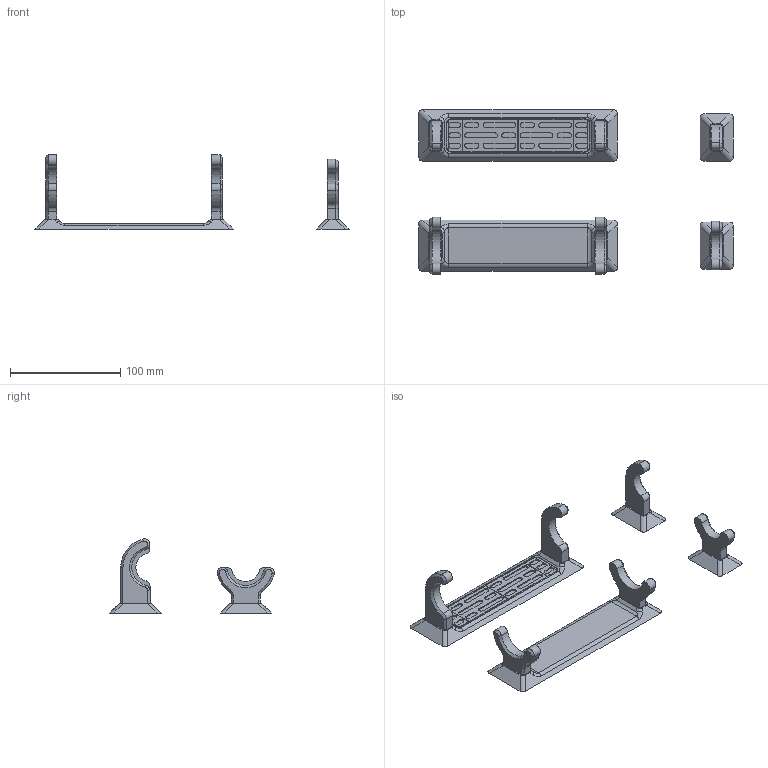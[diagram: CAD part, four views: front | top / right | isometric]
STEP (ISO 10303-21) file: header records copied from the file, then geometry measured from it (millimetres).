
FILE_DESCRIPTION(/* description */ (''),/* implementation_level */ '2;1');
FILE_NAME(/* name */ 'lightsaber_wall_mount_full.step',/* time_stamp */ '2025-11-28T09:45:35-06:00',/* author */ (''),/* organization */ (''),/* preprocessor_version */ 'ST-DEVELOPER v20.1',/* originating_system */ 'Autodesk Translation Framework v14.21.0.0',/* authorisation */ '');
FILE_SCHEMA (('AUTOMOTIVE_DESIGN { 1 0 10303 214 3 1 1 }'));
Length unit declared in the file: millimetre
Products named in the file (7): lightsaber_wall_mount; lightsaber_hilt_wall_hook; wall_panel; lightsaber_blade_wall_hook; wall_mount; lightsaber_hilt_table_hook; lightsaber_blade_table_hook
Assembly tree (6 placements, depth 2):
  lightsaber_wall_mount
    lightsaber_hilt_wall_hook
    wall_panel
    lightsaber_blade_wall_hook
    wall_mount
    lightsaber_hilt_table_hook
    lightsaber_blade_table_hook
Bounding box: 285 x 149.15 x 67.4 mm (x, y, z)
Volume: 140637.5 mm3; surface area: 67604.5 mm2
Topology: 10 solids, 10 shells, 570 faces, 1401 edges, 891 vertices
Faces by surface type: plane 370, cylinder 159, cone 33, bspline 8
Full cylindrical faces by diameter (mm): 3.3 x12, 3.4 x12, 4.7 x12, 6.05 x12
Entity records: 17260 total; most frequent: CARTESIAN_POINT 3139, DIRECTION 3016, ORIENTED_EDGE 2802, EDGE_CURVE 1401, AXIS2_PLACEMENT_3D 1048, LINE 920, VECTOR 920, VERTEX_POINT 891
